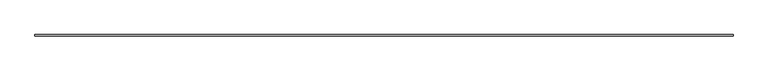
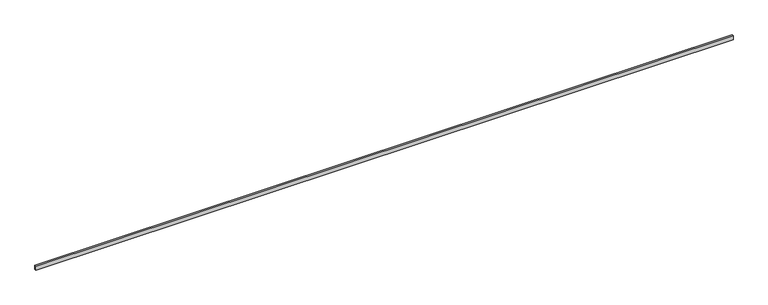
"""IFC4 building model written with IfcOpenShell, lengths in millimetres: proxy geometry, Modelos genéricos 25 : Modelos genéricos 25."""

from ifc_helpers import new_model, si_unit, frame, origin, place, context, project, spatial, polyline, outline, extrude, source, transform, mapped, element, save


def generic_models_5333c860(model_context):
    return source(origin(), model_context, "Body", "SweptSolid", [
        extrude(outline(polyline([(13767.1855645, -2181.3761835), (13767.1855645, -2241.3761835), (-13461.5527533, -2241.3761835), (-13461.5527533, -2181.3761835), (13767.1855645, -2181.3761835)])), frame((0.0, 0.0, 3347.4183406), z_axis=(0.0, 0.0, 1.0), x_axis=(1.0, 0.0, 0.0)), (0.0, 0.0, 1.0), 160.0),
    ])


if __name__ == "__main__":
    model = new_model("IFC4")
    model_context = context("Model", 3, world=origin())
    ifc_project = project(units=[si_unit("LENGTHUNIT", "METRE", prefix="MILLI")], contexts=[model_context])
    site = spatial("IfcSite", under=ifc_project)
    building = spatial("IfcBuilding", under=site)
    placement = place(None, origin())
    generic_models_shape = generic_models_5333c860(model_context)
    element("IfcBuildingElementProxy", 1, Name="Modelos genéricos 25 : Modelos genéricos 25", ObjectType="Modelos genéricos 25 : Modelos genéricos 25", at=placement, inside=building, context=model_context, shape_type="MappedRepresentation", body=[
        mapped(generic_models_shape, transform((0.0, 0.0, 0.0), x_axis=(1.0, 0.0, 0.0), y_axis=(0.0, 1.0, 0.0), z_axis=(0.0, 0.0, 1.0))),
    ])
    save(model, "model.ifc")
